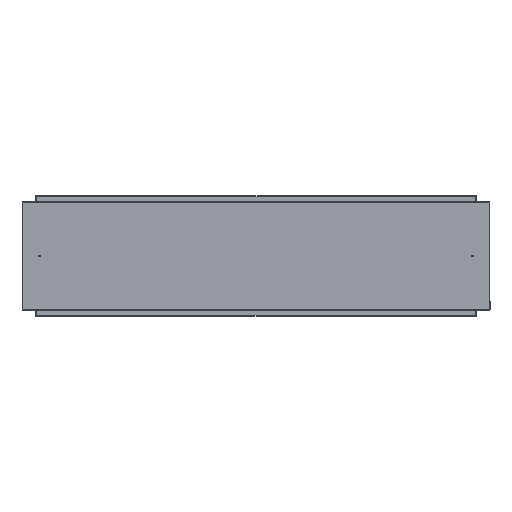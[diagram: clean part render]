
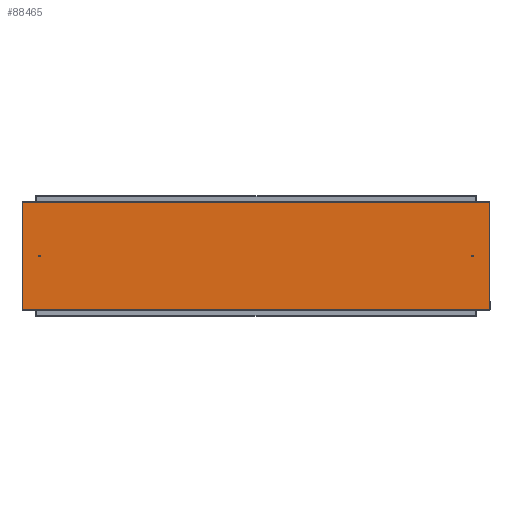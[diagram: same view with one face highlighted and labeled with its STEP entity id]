
A CAD part, left-side view. The second image highlights one B-rep face of the part: STEP entity #88465.
In plain terms, the highlighted planar face has unit normal (-1, 0, 0) as drawn and (0, 0, -1) by its records, which use the part's own axes.
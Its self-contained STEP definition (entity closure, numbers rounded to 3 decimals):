
#486 = CARTESIAN_POINT ( 'NONE',  ( 183.49, 798.5, 0. ) ) ;
#5510 = AXIS2_PLACEMENT_3D ( 'NONE', #55391, #15480, #48231 ) ;
#10266 = CARTESIAN_POINT ( 'NONE',  ( -183.49, -798.5, 0. ) ) ;
#13466 = CARTESIAN_POINT ( 'NONE',  ( -183.49, 798.5, 0. ) ) ;
#15444 = EDGE_CURVE ( 'NONE', #89608, #28242, #100852, .T. ) ;
#15480 = DIRECTION ( 'NONE',  ( 0., 0., 1. ) ) ;
#16595 = ORIENTED_EDGE ( 'NONE', *, *, #49847, .F. ) ;
#16604 = DIRECTION ( 'NONE',  ( 0., -1., 0. ) ) ;
#19957 = ORIENTED_EDGE ( 'NONE', *, *, #15444, .F. ) ;
#25710 = CARTESIAN_POINT ( 'NONE',  ( 183.49, 798.5, 0. ) ) ;
#28242 = VERTEX_POINT ( 'NONE', #42543 ) ;
#29706 = FACE_OUTER_BOUND ( 'NONE', #100662, .T. ) ;
#33001 = CARTESIAN_POINT ( 'NONE',  ( -183.49, 798.5, 0. ) ) ;
#38037 = ORIENTED_EDGE ( 'NONE', *, *, #56424, .F. ) ;
#42543 = CARTESIAN_POINT ( 'NONE',  ( -183.49, -798.5, 0. ) ) ;
#45197 = VERTEX_POINT ( 'NONE', #52218 ) ;
#46634 = PLANE ( 'NONE',  #5510 ) ;
#47408 = EDGE_CURVE ( 'NONE', #45197, #85680, #90759, .T. ) ;
#48231 = DIRECTION ( 'NONE',  ( 1., 0., 0. ) ) ;
#49847 = EDGE_CURVE ( 'NONE', #85680, #89608, #81806, .T. ) ;
#52218 = CARTESIAN_POINT ( 'NONE',  ( 183.49, -798.5, 0. ) ) ;
#52888 = LINE ( 'NONE', #10266, #90325 ) ;
#55391 = CARTESIAN_POINT ( 'NONE',  ( -183.49, 798.5, 0. ) ) ;
#56424 = EDGE_CURVE ( 'NONE', #28242, #45197, #52888, .T. ) ;
#60657 = VECTOR ( 'NONE', #106413, 1000. ) ;
#69143 = VECTOR ( 'NONE', #16604, 1000. ) ;
#81806 = LINE ( 'NONE', #98753, #60657 ) ;
#85680 = VERTEX_POINT ( 'NONE', #25710 ) ;
#88465 = ADVANCED_FACE ( 'NONE', ( #29706 ), #46634, .F. ) ;
#89608 = VERTEX_POINT ( 'NONE', #13466 ) ;
#90325 = VECTOR ( 'NONE', #103774, 1000. ) ;
#90759 = LINE ( 'NONE', #486, #98635 ) ;
#92381 = DIRECTION ( 'NONE',  ( 0., 1., 0. ) ) ;
#96872 = ORIENTED_EDGE ( 'NONE', *, *, #47408, .F. ) ;
#98635 = VECTOR ( 'NONE', #92381, 1000. ) ;
#98753 = CARTESIAN_POINT ( 'NONE',  ( -183.49, 798.5, 0. ) ) ;
#100662 = EDGE_LOOP ( 'NONE', ( #19957, #16595, #96872, #38037 ) ) ;
#100852 = LINE ( 'NONE', #33001, #69143 ) ;
#103774 = DIRECTION ( 'NONE',  ( 1., 0., 0. ) ) ;
#106413 = DIRECTION ( 'NONE',  ( -1., 0., 0. ) ) ;
